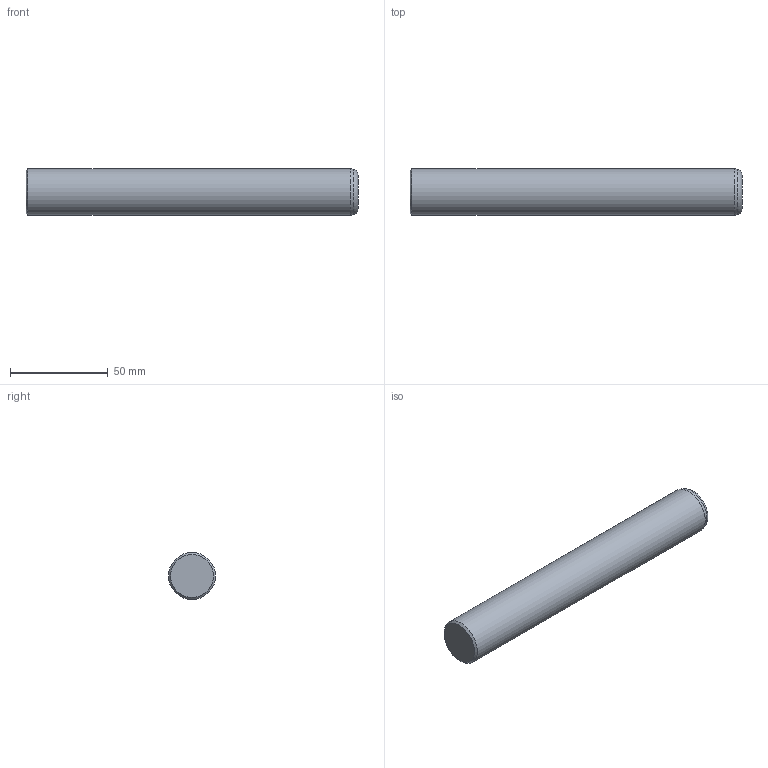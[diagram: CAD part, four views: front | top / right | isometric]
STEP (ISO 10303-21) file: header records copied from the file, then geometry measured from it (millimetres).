
FILE_DESCRIPTION(/* description */ ('Impex Ready, www.impex-ready.pl'),/* implementation_level */ '2;1');
FILE_NAME(/* name */ 'C:\Users\VIKKY\Nextcloud\SM\projekt 10 - części na stronę internetową\Pliki_3D_new\287 Słupy C4\287_C4_STEP\C424170.ipt.step',/* time_stamp */ '2021-12-20T14:22:50+01:00',/* author */ ('SM'),/* organization */ (''),/* preprocessor_version */ 'ST-DEVELOPER v18.1',/* originating_system */ 'Autodesk Inventor 2021',/* authorisation */ '');
FILE_SCHEMA (('AUTOMOTIVE_DESIGN { 1 0 10303 214 3 1 1 }'));
Length unit declared in the file: millimetre
Products named in the file (1): C424170
Bounding box: 170 x 24 x 24 mm (x, y, z)
Volume: 76652.2 mm3; surface area: 13549.6 mm2
Topology: 1 solids, 1 shells, 6 faces, 12 edges, 8 vertices
Faces by surface type: cone 2, plane 2, torus 1, cylinder 1
Full cylindrical faces by diameter (mm): 24 x1
Entity records: 239 total; most frequent: DIRECTION 35, CARTESIAN_POINT 27, ORIENTED_EDGE 24, AXIS2_PLACEMENT_3D 16, EDGE_CURVE 12, CIRCLE 9, VERTEX_POINT 8, STYLED_ITEM 7
